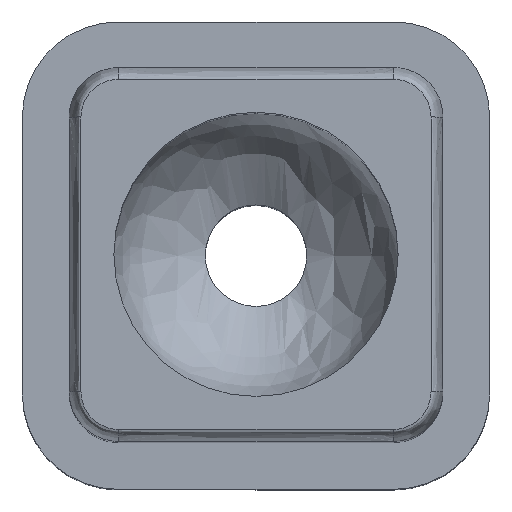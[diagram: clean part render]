
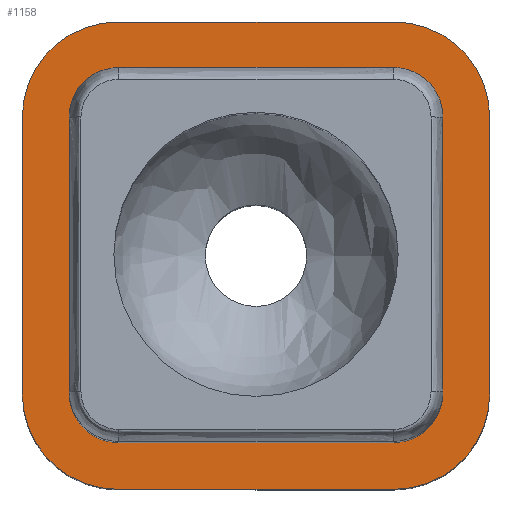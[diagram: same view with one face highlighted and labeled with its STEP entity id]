
A CAD part, top view. The second image highlights one B-rep face of the part: STEP entity #1158.
In plain terms, the highlighted planar face has unit normal (0, 0, 1).
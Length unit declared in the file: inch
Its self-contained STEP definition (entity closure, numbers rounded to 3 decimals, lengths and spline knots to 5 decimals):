
#2 = VERTEX_POINT ( 'NONE', #1118 ) ;
#4 = DIRECTION ( 'NONE',  ( 1., 0., 0. ) ) ;
#5 = EDGE_CURVE ( 'NONE', #1129, #747, #311, .T. ) ;
#7 = CARTESIAN_POINT ( 'NONE',  ( 0.2025, 0.2025, 0. ) ) ;
#18 = CARTESIAN_POINT ( 'NONE',  ( 1.175, 0.2, 0. ) ) ;
#21 = LINE ( 'NONE', #562, #1043 ) ;
#22 = CARTESIAN_POINT ( 'NONE',  ( 0.925, -0.05, 0. ) ) ;
#28 = DIRECTION ( 'NONE',  ( 1., 0., 0. ) ) ;
#47 = CARTESIAN_POINT ( 'NONE',  ( 0.2025, 0.0725, 0. ) ) ;
#53 = CARTESIAN_POINT ( 'NONE',  ( 0.9225, 0.9225, 0. ) ) ;
#60 = EDGE_CURVE ( 'NONE', #250, #247, #629, .T. ) ;
#66 = VERTEX_POINT ( 'NONE', #722 ) ;
#70 = VECTOR ( 'NONE', #467, 39.37008 ) ;
#74 = AXIS2_PLACEMENT_3D ( 'NONE', #537, #704, #815 ) ;
#79 = ORIENTED_EDGE ( 'NONE', *, *, #1189, .F. ) ;
#80 = VERTEX_POINT ( 'NONE', #739 ) ;
#82 = EDGE_CURVE ( 'NONE', #747, #250, #873, .T. ) ;
#83 = CIRCLE ( 'NONE', #344, 0.25 ) ;
#118 = LINE ( 'NONE', #974, #361 ) ;
#123 = AXIS2_PLACEMENT_3D ( 'NONE', #385, #969, #416 ) ;
#125 = CARTESIAN_POINT ( 'NONE',  ( 1.0525, 0.2025, 0. ) ) ;
#140 = DIRECTION ( 'NONE',  ( 0., -1., 0. ) ) ;
#156 = VERTEX_POINT ( 'NONE', #1151 ) ;
#160 = VERTEX_POINT ( 'NONE', #125 ) ;
#173 = CIRCLE ( 'NONE', #123, 0.25 ) ;
#174 = CARTESIAN_POINT ( 'NONE',  ( 0.2025, 0.9225, 0. ) ) ;
#177 = ORIENTED_EDGE ( 'NONE', *, *, #238, .F. ) ;
#182 = VERTEX_POINT ( 'NONE', #47 ) ;
#233 = ORIENTED_EDGE ( 'NONE', *, *, #624, .F. ) ;
#238 = EDGE_CURVE ( 'NONE', #244, #898, #831, .T. ) ;
#240 = CARTESIAN_POINT ( 'NONE',  ( 0.0725, 0.9225, 0. ) ) ;
#244 = VERTEX_POINT ( 'NONE', #256 ) ;
#247 = VERTEX_POINT ( 'NONE', #863 ) ;
#250 = VERTEX_POINT ( 'NONE', #644 ) ;
#256 = CARTESIAN_POINT ( 'NONE',  ( 1.175, 0.925, 0. ) ) ;
#266 = VECTOR ( 'NONE', #140, 39.37008 ) ;
#300 = EDGE_CURVE ( 'NONE', #247, #244, #173, .T. ) ;
#305 = EDGE_LOOP ( 'NONE', ( #697, #521, #496, #424, #895, #233, #177, #541 ) ) ;
#307 = EDGE_LOOP ( 'NONE', ( #768, #387, #998, #905, #931, #971, #619, #79 ) ) ;
#311 = LINE ( 'NONE', #535, #812 ) ;
#325 = CARTESIAN_POINT ( 'NONE',  ( 0., 1.0525, 0. ) ) ;
#344 = AXIS2_PLACEMENT_3D ( 'NONE', #1039, #1145, #1110 ) ;
#361 = VECTOR ( 'NONE', #501, 39.37008 ) ;
#362 = CARTESIAN_POINT ( 'NONE',  ( 0.2025, 1.0525, 0. ) ) ;
#380 = CARTESIAN_POINT ( 'NONE',  ( 0.2, 0.2, 0. ) ) ;
#384 = DIRECTION ( 'NONE',  ( 1., 0., 0. ) ) ;
#385 = CARTESIAN_POINT ( 'NONE',  ( 0.925, 0.925, 0. ) ) ;
#387 = ORIENTED_EDGE ( 'NONE', *, *, #699, .F. ) ;
#388 = FACE_BOUND ( 'NONE', #307, .T. ) ;
#396 = CIRCLE ( 'NONE', #485, 0.13 ) ;
#399 = EDGE_CURVE ( 'NONE', #1139, #80, #118, .T. ) ;
#403 = VECTOR ( 'NONE', #28, 39.37008 ) ;
#416 = DIRECTION ( 'NONE',  ( -1., 0., 0. ) ) ;
#419 = VERTEX_POINT ( 'NONE', #362 ) ;
#424 = ORIENTED_EDGE ( 'NONE', *, *, #1114, .F. ) ;
#449 = DIRECTION ( 'NONE',  ( 0., 0., 1. ) ) ;
#465 = DIRECTION ( 'NONE',  ( 1., 0., 0. ) ) ;
#467 = DIRECTION ( 'NONE',  ( 1., 0., 0. ) ) ;
#471 = DIRECTION ( 'NONE',  ( -1., 0., 0. ) ) ;
#472 = FACE_OUTER_BOUND ( 'NONE', #305, .T. ) ;
#474 = CARTESIAN_POINT ( 'NONE',  ( 0.125, 0.125, 0. ) ) ;
#485 = AXIS2_PLACEMENT_3D ( 'NONE', #1021, #449, #1094 ) ;
#486 = DIRECTION ( 'NONE',  ( 0., 0., 1. ) ) ;
#493 = VERTEX_POINT ( 'NONE', #776 ) ;
#496 = ORIENTED_EDGE ( 'NONE', *, *, #5, .F. ) ;
#500 = AXIS2_PLACEMENT_3D ( 'NONE', #174, #874, #4 ) ;
#501 = DIRECTION ( 'NONE',  ( -1., 0., 0. ) ) ;
#521 = ORIENTED_EDGE ( 'NONE', *, *, #82, .F. ) ;
#528 = VECTOR ( 'NONE', #471, 39.37008 ) ;
#535 = CARTESIAN_POINT ( 'NONE',  ( -0.05, 0.2, 0. ) ) ;
#537 = CARTESIAN_POINT ( 'NONE',  ( 0.2, 0.925, 0. ) ) ;
#538 = EDGE_CURVE ( 'NONE', #66, #182, #718, .T. ) ;
#541 = ORIENTED_EDGE ( 'NONE', *, *, #300, .F. ) ;
#562 = CARTESIAN_POINT ( 'NONE',  ( 0.0725, 0., 0. ) ) ;
#578 = EDGE_CURVE ( 'NONE', #419, #1083, #833, .T. ) ;
#615 = CIRCLE ( 'NONE', #618, 0.13 ) ;
#618 = AXIS2_PLACEMENT_3D ( 'NONE', #53, #724, #1172 ) ;
#619 = ORIENTED_EDGE ( 'NONE', *, *, #796, .T. ) ;
#623 = DIRECTION ( 'NONE',  ( 0., 1., 0. ) ) ;
#624 = EDGE_CURVE ( 'NONE', #898, #1139, #83, .T. ) ;
#629 = LINE ( 'NONE', #1035, #70 ) ;
#644 = CARTESIAN_POINT ( 'NONE',  ( 0.2, 1.175, 0. ) ) ;
#669 = CARTESIAN_POINT ( 'NONE',  ( 0., 0.0725, 0. ) ) ;
#697 = ORIENTED_EDGE ( 'NONE', *, *, #60, .F. ) ;
#698 = DIRECTION ( 'NONE',  ( 0., 0., -1. ) ) ;
#699 = EDGE_CURVE ( 'NONE', #2, #160, #396, .T. ) ;
#704 = DIRECTION ( 'NONE',  ( 0., 0., -1. ) ) ;
#718 = CIRCLE ( 'NONE', #749, 0.13 ) ;
#722 = CARTESIAN_POINT ( 'NONE',  ( 0.0725, 0.2025, 0. ) ) ;
#723 = DIRECTION ( 'NONE',  ( -1., 0., 0. ) ) ;
#724 = DIRECTION ( 'NONE',  ( 0., 0., 1. ) ) ;
#733 = PLANE ( 'NONE',  #1117 ) ;
#734 = CARTESIAN_POINT ( 'NONE',  ( -0.05, 0.2, 0. ) ) ;
#739 = CARTESIAN_POINT ( 'NONE',  ( 0.2, -0.05, 0. ) ) ;
#747 = VERTEX_POINT ( 'NONE', #825 ) ;
#749 = AXIS2_PLACEMENT_3D ( 'NONE', #7, #486, #465 ) ;
#768 = ORIENTED_EDGE ( 'NONE', *, *, #949, .T. ) ;
#776 = CARTESIAN_POINT ( 'NONE',  ( 1.0525, 0.9225, 0. ) ) ;
#796 = EDGE_CURVE ( 'NONE', #419, #156, #967, .T. ) ;
#812 = VECTOR ( 'NONE', #1111, 39.37008 ) ;
#815 = DIRECTION ( 'NONE',  ( -1., 0., 0. ) ) ;
#823 = EDGE_CURVE ( 'NONE', #66, #1083, #21, .T. ) ;
#825 = CARTESIAN_POINT ( 'NONE',  ( -0.05, 0.925, 0. ) ) ;
#831 = LINE ( 'NONE', #978, #896 ) ;
#833 = CIRCLE ( 'NONE', #500, 0.13 ) ;
#854 = DIRECTION ( 'NONE',  ( 0., -1., 0. ) ) ;
#862 = AXIS2_PLACEMENT_3D ( 'NONE', #380, #698, #723 ) ;
#863 = CARTESIAN_POINT ( 'NONE',  ( 0.925, 1.175, 0. ) ) ;
#873 = CIRCLE ( 'NONE', #74, 0.25 ) ;
#874 = DIRECTION ( 'NONE',  ( 0., 0., 1. ) ) ;
#878 = DIRECTION ( 'NONE',  ( 0., 0., 1. ) ) ;
#895 = ORIENTED_EDGE ( 'NONE', *, *, #399, .F. ) ;
#896 = VECTOR ( 'NONE', #854, 39.37008 ) ;
#898 = VERTEX_POINT ( 'NONE', #18 ) ;
#905 = ORIENTED_EDGE ( 'NONE', *, *, #538, .F. ) ;
#931 = ORIENTED_EDGE ( 'NONE', *, *, #823, .T. ) ;
#949 = EDGE_CURVE ( 'NONE', #493, #160, #1027, .T. ) ;
#967 = LINE ( 'NONE', #325, #403 ) ;
#969 = DIRECTION ( 'NONE',  ( 0., 0., -1. ) ) ;
#971 = ORIENTED_EDGE ( 'NONE', *, *, #578, .F. ) ;
#974 = CARTESIAN_POINT ( 'NONE',  ( 0.925, -0.05, 0. ) ) ;
#978 = CARTESIAN_POINT ( 'NONE',  ( 1.175, 0.2, 0. ) ) ;
#998 = ORIENTED_EDGE ( 'NONE', *, *, #1197, .T. ) ;
#1021 = CARTESIAN_POINT ( 'NONE',  ( 0.9225, 0.2025, 0. ) ) ;
#1027 = LINE ( 'NONE', #1123, #266 ) ;
#1035 = CARTESIAN_POINT ( 'NONE',  ( 0.925, 1.175, 0. ) ) ;
#1039 = CARTESIAN_POINT ( 'NONE',  ( 0.925, 0.2, 0. ) ) ;
#1043 = VECTOR ( 'NONE', #623, 39.37008 ) ;
#1083 = VERTEX_POINT ( 'NONE', #240 ) ;
#1089 = CIRCLE ( 'NONE', #862, 0.25 ) ;
#1094 = DIRECTION ( 'NONE',  ( 1., 0., 0. ) ) ;
#1110 = DIRECTION ( 'NONE',  ( -1., 0., 0. ) ) ;
#1111 = DIRECTION ( 'NONE',  ( 0., 1., 0. ) ) ;
#1114 = EDGE_CURVE ( 'NONE', #80, #1129, #1089, .T. ) ;
#1117 = AXIS2_PLACEMENT_3D ( 'NONE', #474, #878, #384 ) ;
#1118 = CARTESIAN_POINT ( 'NONE',  ( 0.9225, 0.0725, 0. ) ) ;
#1123 = CARTESIAN_POINT ( 'NONE',  ( 1.0525, 0., 0. ) ) ;
#1129 = VERTEX_POINT ( 'NONE', #734 ) ;
#1139 = VERTEX_POINT ( 'NONE', #22 ) ;
#1145 = DIRECTION ( 'NONE',  ( 0., 0., -1. ) ) ;
#1151 = CARTESIAN_POINT ( 'NONE',  ( 0.9225, 1.0525, 0. ) ) ;
#1158 = ADVANCED_FACE ( 'NONE', ( #472, #388 ), #733, .T. ) ;
#1172 = DIRECTION ( 'NONE',  ( 1., 0., 0. ) ) ;
#1189 = EDGE_CURVE ( 'NONE', #493, #156, #615, .T. ) ;
#1197 = EDGE_CURVE ( 'NONE', #2, #182, #1202, .T. ) ;
#1202 = LINE ( 'NONE', #669, #528 ) ;
